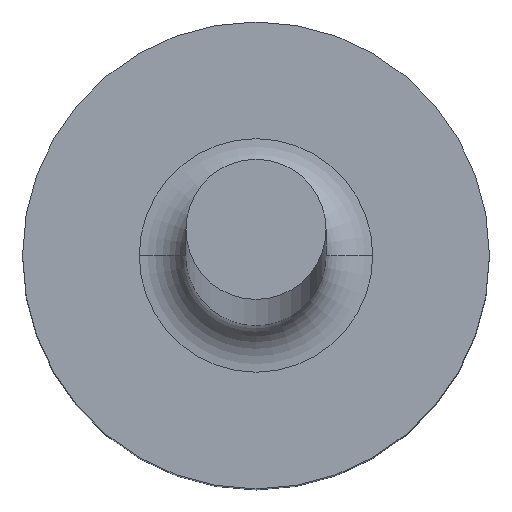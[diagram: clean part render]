
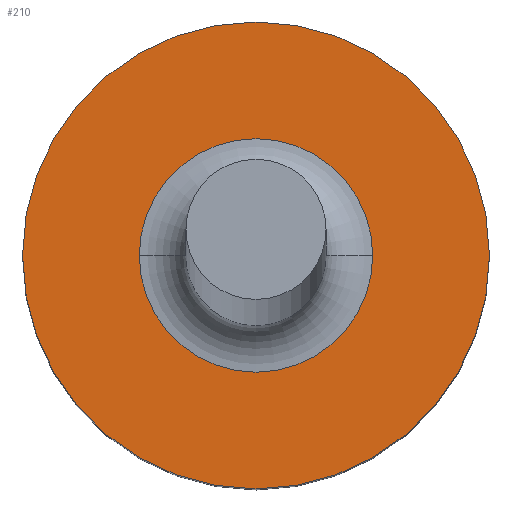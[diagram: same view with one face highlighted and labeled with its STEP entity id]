
A CAD part, top view. The second image highlights one B-rep face of the part: STEP entity #210.
In plain terms, the highlighted planar face has unit normal (0, 0, 1).
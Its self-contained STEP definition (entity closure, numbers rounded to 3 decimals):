
#11 = CIRCLE ( 'NONE', #92, 0.75 ) ;
#16 = DIRECTION ( 'NONE',  ( -1., 0., 0. ) ) ;
#26 = VERTEX_POINT ( 'NONE', #115 ) ;
#34 = DIRECTION ( 'NONE',  ( 0., 0., -1. ) ) ;
#39 = CARTESIAN_POINT ( 'NONE',  ( 0.75, 0., 4. ) ) ;
#46 = CARTESIAN_POINT ( 'NONE',  ( 0., 0., 4. ) ) ;
#47 = DIRECTION ( 'NONE',  ( -1., 0., 0. ) ) ;
#55 = AXIS2_PLACEMENT_3D ( 'NONE', #152, #246, #47 ) ;
#56 = CIRCLE ( 'NONE', #267, 0.75 ) ;
#58 = EDGE_LOOP ( 'NONE', ( #238, #90 ) ) ;
#61 = DIRECTION ( 'NONE',  ( -1., 0., 0. ) ) ;
#66 = DIRECTION ( 'NONE',  ( 0., 0., -1. ) ) ;
#69 = CIRCLE ( 'NONE', #123, 1.5 ) ;
#71 = VERTEX_POINT ( 'NONE', #170 ) ;
#81 = DIRECTION ( 'NONE',  ( -1., 0., 0. ) ) ;
#90 = ORIENTED_EDGE ( 'NONE', *, *, #272, .T. ) ;
#92 = AXIS2_PLACEMENT_3D ( 'NONE', #46, #220, #16 ) ;
#93 = ORIENTED_EDGE ( 'NONE', *, *, #136, .F. ) ;
#102 = DIRECTION ( 'NONE',  ( -1., 0., 0. ) ) ;
#115 = CARTESIAN_POINT ( 'NONE',  ( -0.75, 0., 4. ) ) ;
#123 = AXIS2_PLACEMENT_3D ( 'NONE', #177, #219, #102 ) ;
#127 = VERTEX_POINT ( 'NONE', #39 ) ;
#132 = CARTESIAN_POINT ( 'NONE',  ( 0., 0., 4. ) ) ;
#136 = EDGE_CURVE ( 'NONE', #71, #192, #249, .T. ) ;
#150 = CARTESIAN_POINT ( 'NONE',  ( 0., 0., 4. ) ) ;
#152 = CARTESIAN_POINT ( 'NONE',  ( 1.5, 0., 4. ) ) ;
#170 = CARTESIAN_POINT ( 'NONE',  ( 1.5, 0., 4. ) ) ;
#177 = CARTESIAN_POINT ( 'NONE',  ( 0., 0., 4. ) ) ;
#182 = PLANE ( 'NONE',  #55 ) ;
#184 = FACE_OUTER_BOUND ( 'NONE', #231, .T. ) ;
#192 = VERTEX_POINT ( 'NONE', #263 ) ;
#210 = ADVANCED_FACE ( 'NONE', ( #221, #184 ), #182, .F. ) ;
#219 = DIRECTION ( 'NONE',  ( 0., 0., -1. ) ) ;
#220 = DIRECTION ( 'NONE',  ( 0., 0., -1. ) ) ;
#221 = FACE_BOUND ( 'NONE', #58, .T. ) ;
#231 = EDGE_LOOP ( 'NONE', ( #234, #93 ) ) ;
#234 = ORIENTED_EDGE ( 'NONE', *, *, #235, .F. ) ;
#235 = EDGE_CURVE ( 'NONE', #192, #71, #69, .T. ) ;
#238 = ORIENTED_EDGE ( 'NONE', *, *, #268, .T. ) ;
#246 = DIRECTION ( 'NONE',  ( 0., 0., -1. ) ) ;
#249 = CIRCLE ( 'NONE', #266, 1.5 ) ;
#263 = CARTESIAN_POINT ( 'NONE',  ( -1.5, 0., 4. ) ) ;
#266 = AXIS2_PLACEMENT_3D ( 'NONE', #150, #34, #61 ) ;
#267 = AXIS2_PLACEMENT_3D ( 'NONE', #132, #66, #81 ) ;
#268 = EDGE_CURVE ( 'NONE', #26, #127, #11, .T. ) ;
#272 = EDGE_CURVE ( 'NONE', #127, #26, #56, .T. ) ;
